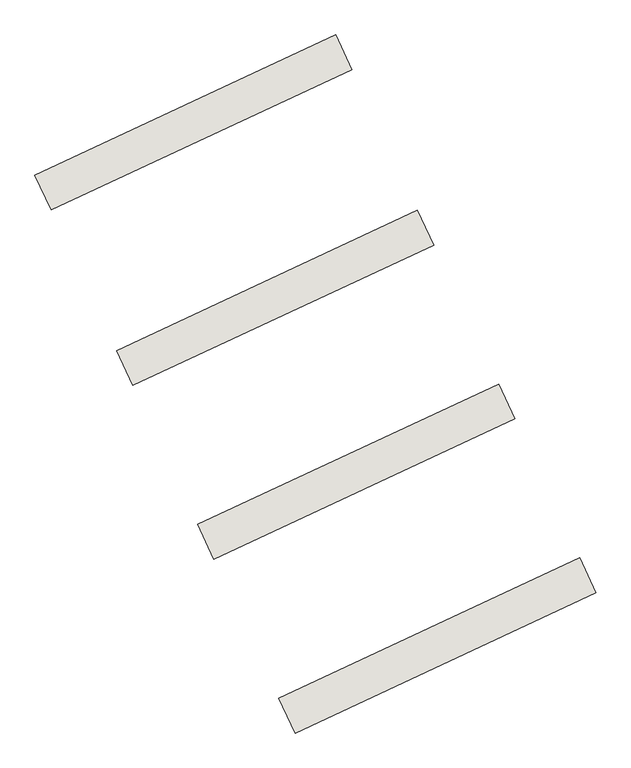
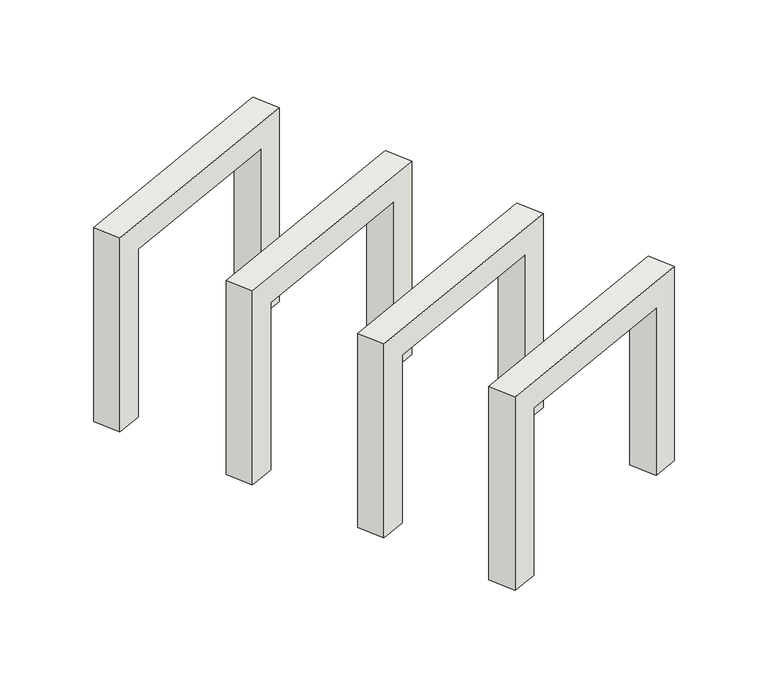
"""IFC4 building model written with IfcOpenShell, lengths in millimetres: wall geometry, payeh-gaem : payeh-gaem."""

from ifc_helpers import new_model, si_unit, frame, origin, place, context, project, spatial, polyline, outline, extrude, source, transform, mapped, element, save


def wall_d6dfb486(model_context):
    return source(origin(), model_context, "Body", "SweptSolid", [
        extrude(outline(polyline([(2575.0, 0.0), (2575.0, 2660.0), (25.0, 2660.0), (25.0, 3060.0), (2975.0, 3060.0), (2975.0, -400.0), (25.0, -400.0), (25.0, 0.0), (2575.0, 0.0)])), frame((6961.7128048, -7013.8092251, 25625.0), z_axis=(-0.4226182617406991, 0.9063077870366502, 0.0), x_axis=(0.0, 0.0, 1.0)), (0.0, 0.0, 1.0), 400.0),
        extrude(outline(polyline([(2575.0, 0.0), (2575.0, 2660.0), (25.0, 2660.0), (25.0, 3060.0), (2975.0, 3060.0), (2975.0, -400.0), (25.0, -400.0), (25.0, 0.0), (2575.0, 0.0)])), frame((6116.4762813, -5201.193651, 25625.0), z_axis=(-0.4226182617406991, 0.9063077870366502, 0.0), x_axis=(0.0, 0.0, 1.0)), (0.0, 0.0, 1.0), 400.0),
        extrude(outline(polyline([(2575.0, 0.0), (2575.0, 2660.0000001), (25.0, 2660.0000001), (25.0, 3060.0000001), (2975.0, 3060.0000001), (2975.0, -400.0), (25.0, -400.0), (25.0, 0.0), (2575.0, 0.0)])), frame((5271.2397578, -3388.5780769, 25625.0), z_axis=(-0.4226182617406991, 0.9063077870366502, 0.0), x_axis=(0.0, 0.0, 1.0)), (0.0, 0.0, 1.0), 400.0),
        extrude(outline(polyline([(2575.0, 0.0), (2575.0, 2660.0), (25.0, 2660.0), (25.0, 3060.0000001), (2975.0, 3060.0000001), (2975.0, -400.0), (25.0, -400.0), (25.0, 0.0), (2575.0, 0.0)])), frame((4418.8909566, -1560.7101741, 25625.0), z_axis=(-0.4226182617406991, 0.9063077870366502, 0.0), x_axis=(0.0, 0.0, 1.0)), (0.0, 0.0, 1.0), 400.0),
    ])


if __name__ == "__main__":
    model = new_model("IFC4")
    model_context = context("Model", 3, world=origin())
    ifc_project = project(units=[si_unit("LENGTHUNIT", "METRE", prefix="MILLI")], contexts=[model_context])
    site = spatial("IfcSite", under=ifc_project)
    building = spatial("IfcBuilding", under=site)
    placement = place(None, origin())
    wall_shape = wall_d6dfb486(model_context)
    element("IfcWall", 1, ObjectType="payeh-gaem : payeh-gaem", at=placement, inside=building, context=model_context, shape_type="MappedRepresentation", body=[
        mapped(wall_shape, transform((0.0, 0.0, 0.0), x_axis=(1.0, 0.0, 0.0), y_axis=(0.0, 1.0, 0.0), z_axis=(0.0, 0.0, 1.0))),
    ])
    save(model, "model.ifc")
